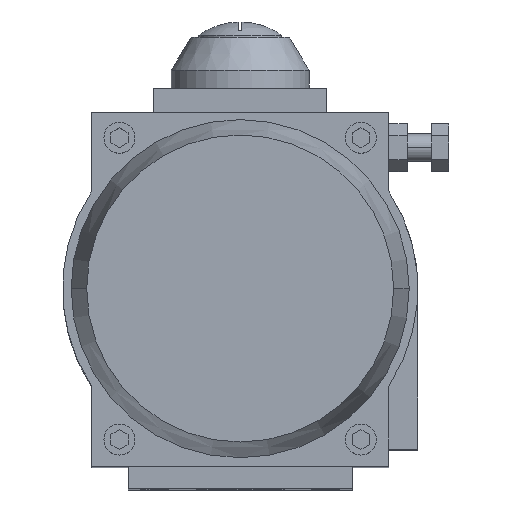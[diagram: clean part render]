
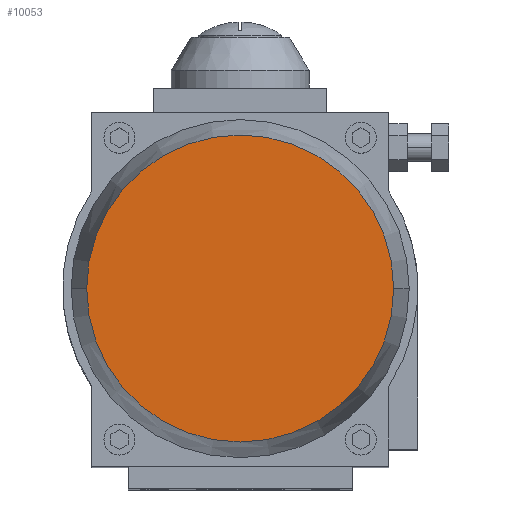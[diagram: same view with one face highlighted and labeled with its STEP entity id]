
A CAD part, top view. The second image highlights one B-rep face of the part: STEP entity #10053.
In plain terms, the highlighted planar face has unit normal (0, 0, 1).
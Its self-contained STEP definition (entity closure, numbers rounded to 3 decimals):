
#8992=CARTESIAN_POINT('',(0.,0.,261.));
#8993=DIRECTION('',(0.,0.,-1.));
#8994=DIRECTION('',(-1.,0.,0.));
#8995=AXIS2_PLACEMENT_3D('',#8992,#8993,#8994);
#8997=CARTESIAN_POINT('',(0.,0.,261.));
#8998=DIRECTION('',(0.,0.,-1.));
#8999=DIRECTION('',(1.,0.,0.));
#9000=AXIS2_PLACEMENT_3D('',#8997,#8998,#8999);
#9124=CARTESIAN_POINT('',(-89.,0.,261.));
#9125=CARTESIAN_POINT('',(89.,0.,261.));
#9126=VERTEX_POINT('',#9124);
#9127=VERTEX_POINT('',#9125);
#10044=CARTESIAN_POINT('',(0.,0.,261.));
#10045=DIRECTION('',(0.,0.,1.));
#10046=DIRECTION('',(1.,0.,0.));
#10047=AXIS2_PLACEMENT_3D('',#10044,#10045,#10046);
#10048=PLANE('',#10047);
#10049=ORIENTED_EDGE('',*,*,#10036,.T.);
#10050=ORIENTED_EDGE('',*,*,#10024,.T.);
#10051=EDGE_LOOP('',(#10049,#10050));
#10052=FACE_OUTER_BOUND('',#10051,.F.);
#10053=ADVANCED_FACE('',(#10052),#10048,.T.);
#8996=CIRCLE('',#8995,89.);
#9001=CIRCLE('',#9000,89.);
#10024=EDGE_CURVE('',#9127,#9126,#9001,.T.);
#10036=EDGE_CURVE('',#9126,#9127,#8996,.T.);
